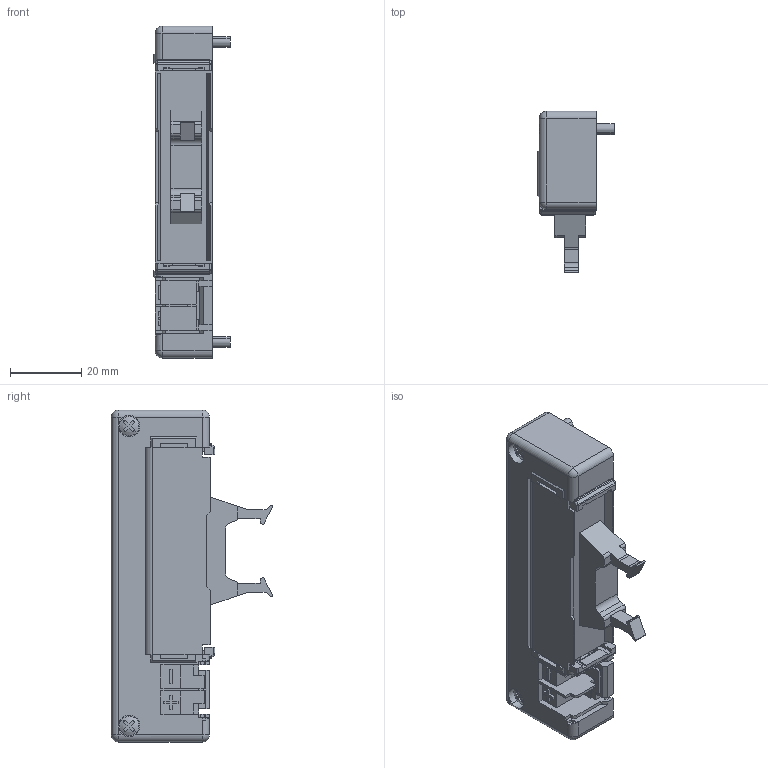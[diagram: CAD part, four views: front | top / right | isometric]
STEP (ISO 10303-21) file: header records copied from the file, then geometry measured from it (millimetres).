
FILE_DESCRIPTION( (''), '2;1');
FILE_NAME ('CVICAD32.25716.FZX-F10x_10531.stp','2020-09-09T09:19:30',(''),(''),'spGate 12.6.6','','');
FILE_SCHEMA (('AUTOMOTIVE_DESIGN'));
Length unit declared in the file: millimetre
Products named in the file (3): Assembly; CVICAD32-prt0; CVICAD32-prt1
Assembly tree (2 placements, depth 2):
  Assembly
    CVICAD32-prt0
    CVICAD32-prt1
Bounding box: 21.4 x 45.2 x 93 mm (x, y, z)
Volume: 34091.4 mm3; surface area: 14794.3 mm2
Topology: 2 solids, 2 shells, 415 faces, 1206 edges, 778 vertices
Faces by surface type: plane 306, cylinder 84, sphere 20, bspline 5
Entity records: 22900 total; most frequent: CARTESIAN_POINT 2603, ORIENTED_EDGE 2380, DIRECTION 2210, COLOUR_RGB 1607, PRESENTATION_STYLE_ASSIGNMENT 1607, STYLED_ITEM 1607, EDGE_CURVE 1190, DRAUGHTING_PRE_DEFINED_CURVE_FONT 1190
